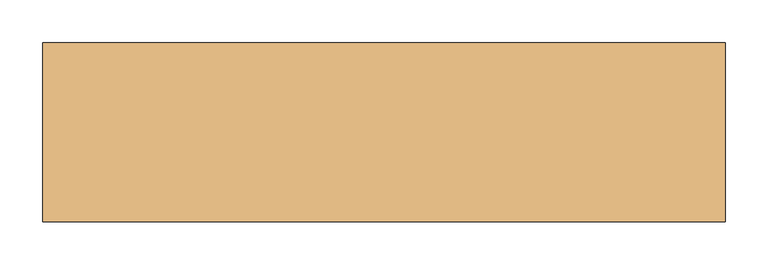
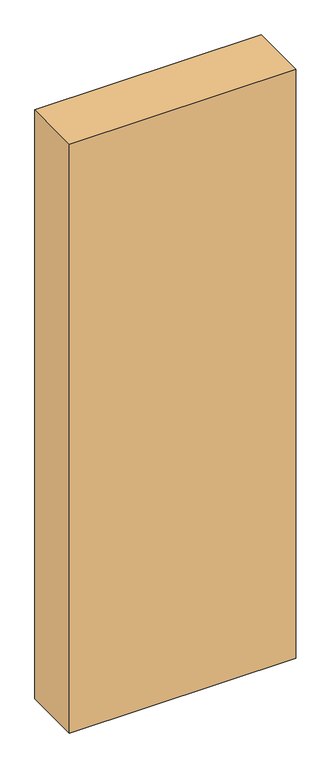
"""IFC4 building model written with IfcOpenShell, lengths in millimetres: door geometry, Dr_Проем-Простой : ДВ."""

from ifc_helpers import new_model, si_unit, frame, origin, place, context, project, spatial, polyline, outline, extrude, source, transform, mapped, element, save


def door_c12ba408(model_context):
    return source(origin(), model_context, "Body", "SweptSolid", [
        extrude(outline(polyline([(605.3230163, 105.0), (605.3230163, -105.0), (-194.6769837, -105.0), (-194.6769837, 105.0), (605.3230163, 105.0)])), frame((0.0, 0.0, -100.0), z_axis=(0.0, 0.0, 1.0), x_axis=(1.0, 0.0, 0.0)), (0.0, 0.0, 1.0), 2200.0),
    ])


if __name__ == "__main__":
    model = new_model("IFC4")
    model_context = context("Model", 3, world=origin())
    ifc_project = project(units=[si_unit("LENGTHUNIT", "METRE", prefix="MILLI")], contexts=[model_context])
    site = spatial("IfcSite", under=ifc_project)
    building = spatial("IfcBuilding", under=site)
    placement = place(None, origin())
    door_shape = door_c12ba408(model_context)
    element("IfcDoor", 1, ObjectType="Dr_Проем-Простой : ДВ", at=placement, inside=building, context=model_context, shape_type="MappedRepresentation", body=[
        mapped(door_shape, transform((0.0, 0.0, 0.0), x_axis=(1.0, 0.0, 0.0), y_axis=(0.0, 1.0, 0.0), z_axis=(0.0, 0.0, 1.0))),
    ])
    save(model, "model.ifc")
